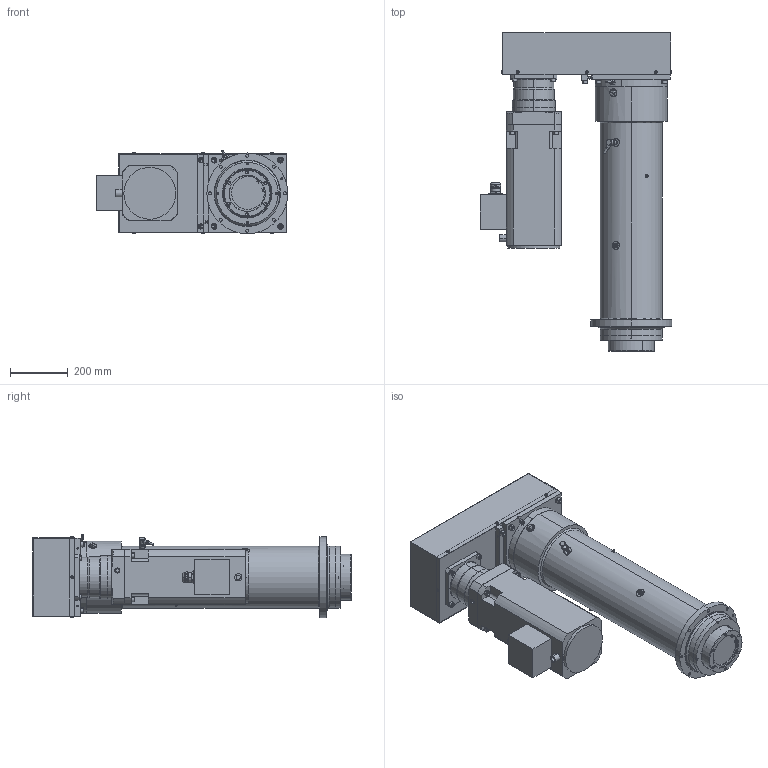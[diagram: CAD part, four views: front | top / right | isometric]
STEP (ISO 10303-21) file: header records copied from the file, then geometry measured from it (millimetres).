
FILE_DESCRIPTION (( 'STEP AP203' ), '1' );
FILE_NAME ('3740151.STEP', '2017-07-24T09:34:40', ( 'Holtz' ), ( '' ), 'SwSTEP 2.0', 'SolidWorks 2016', '' );
FILE_SCHEMA (( 'CONFIG_CONTROL_DESIGN' ));
Length unit declared in the file: millimetre
Products named in the file (1): 3740151
Bounding box: 664.94 x 1104 x 290.34 mm (x, y, z)
Volume: 43116106.1 mm3; surface area: 4122774.1 mm2
Topology: 53 solids, 53 shells, 1942 faces, 4552 edges, 2761 vertices
Faces by surface type: plane 774, cylinder 749, cone 343, torus 70, bspline 6
Entity records: 60083 total; most frequent: CARTESIAN_POINT 15101, DIRECTION 9919, ORIENTED_EDGE 8784, EDGE_CURVE 4392, AXIS2_PLACEMENT_3D 3856, VERTEX_POINT 2761, EDGE_LOOP 2339, VECTOR 2207
